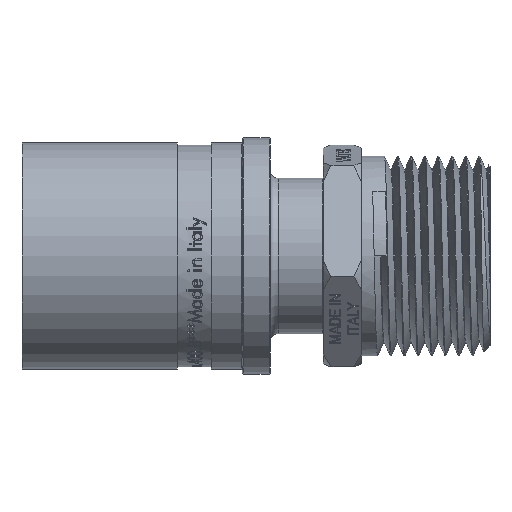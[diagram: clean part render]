
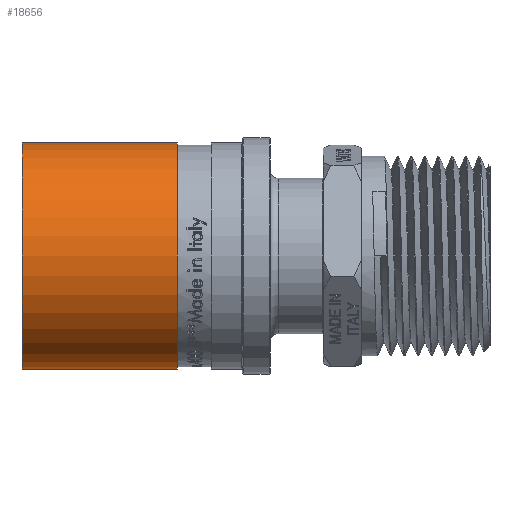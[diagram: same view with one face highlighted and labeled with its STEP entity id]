
A CAD part, front view. The second image highlights one B-rep face of the part: STEP entity #18656.
In plain terms, the highlighted cylindrical face has radius 14.925 mm (diameter 29.85 mm), a full revolution.
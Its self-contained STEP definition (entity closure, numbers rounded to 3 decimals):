
#1891=FACE_OUTER_BOUND('',#3522,.T.);
#2198=CIRCLE('',#19514,14.925);
#2199=CIRCLE('',#19515,14.925);
#2200=CIRCLE('',#19517,14.925);
#2201=CIRCLE('',#19518,14.925);
#3522=EDGE_LOOP('',(#17256,#17257,#17258,#17259,#17260,#17261));
#5924=LINE('',#40793,#7387);
#7387=VECTOR('',#22741,14.925);
#9148=VERTEX_POINT('',#40784);
#9149=VERTEX_POINT('',#40785);
#9150=VERTEX_POINT('',#40789);
#9151=VERTEX_POINT('',#40790);
#11884=EDGE_CURVE('',#9148,#9149,#2198,.T.);
#11885=EDGE_CURVE('',#9149,#9148,#2199,.T.);
#11886=EDGE_CURVE('',#9150,#9151,#2200,.T.);
#11887=EDGE_CURVE('',#9151,#9150,#2201,.T.);
#11888=EDGE_CURVE('',#9151,#9149,#5924,.T.);
#17256=ORIENTED_EDGE('',*,*,#11886,.F.);
#17257=ORIENTED_EDGE('',*,*,#11887,.F.);
#17258=ORIENTED_EDGE('',*,*,#11888,.T.);
#17259=ORIENTED_EDGE('',*,*,#11885,.T.);
#17260=ORIENTED_EDGE('',*,*,#11884,.T.);
#17261=ORIENTED_EDGE('',*,*,#11888,.F.);
#17684=CYLINDRICAL_SURFACE('',#19516,14.925);
#18656=ADVANCED_FACE('',(#1891),#17684,.T.);
#19514=AXIS2_PLACEMENT_3D('',#40786,#22731,#22732);
#19515=AXIS2_PLACEMENT_3D('',#40787,#22733,#22734);
#19516=AXIS2_PLACEMENT_3D('',#40788,#22735,#22736);
#19517=AXIS2_PLACEMENT_3D('',#40791,#22737,#22738);
#19518=AXIS2_PLACEMENT_3D('',#40792,#22739,#22740);
#22731=DIRECTION('center_axis',(1.,0.,0.));
#22732=DIRECTION('ref_axis',(0.,0.,-1.));
#22733=DIRECTION('center_axis',(1.,0.,0.));
#22734=DIRECTION('ref_axis',(0.,0.,-1.));
#22735=DIRECTION('center_axis',(1.,0.,0.));
#22736=DIRECTION('ref_axis',(0.,1.,0.));
#22737=DIRECTION('center_axis',(1.,0.,0.));
#22738=DIRECTION('ref_axis',(0.,0.,-1.));
#22739=DIRECTION('center_axis',(1.,0.,0.));
#22740=DIRECTION('ref_axis',(0.,0.,-1.));
#22741=DIRECTION('',(-1.,0.,0.));
#40784=CARTESIAN_POINT('',(-23.112,14.925,0.));
#40785=CARTESIAN_POINT('',(-23.112,-14.925,0.));
#40786=CARTESIAN_POINT('Origin',(-23.112,0.,0.));
#40787=CARTESIAN_POINT('Origin',(-23.112,0.,0.));
#40788=CARTESIAN_POINT('Origin',(-12.862,0.,0.));
#40789=CARTESIAN_POINT('',(-2.612,14.925,0.));
#40790=CARTESIAN_POINT('',(-2.612,-14.925,0.));
#40791=CARTESIAN_POINT('Origin',(-2.612,0.,0.));
#40792=CARTESIAN_POINT('Origin',(-2.612,0.,0.));
#40793=CARTESIAN_POINT('',(-12.862,-14.925,0.));
